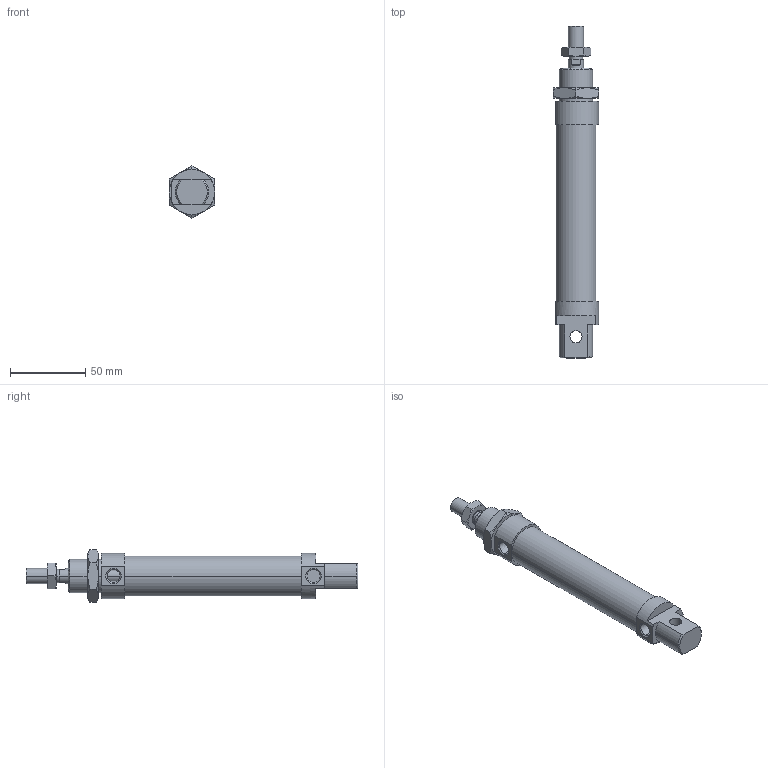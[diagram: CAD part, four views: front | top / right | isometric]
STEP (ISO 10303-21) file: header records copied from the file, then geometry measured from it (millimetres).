
FILE_DESCRIPTION((''),'2;1');
FILE_NAME('I:\DOC-EDP\Lib-3d\1200\CILINDRI\1280\1280_25_0080.stp','2003-04-07T18:00:10',('maffial1'),(''),'Autodesk Inventor (R) 6.0','Autodesk Inventor (R) 6.0','');
FILE_SCHEMA(('AUTOMOTIVE_DESIGN { 1 0 10303 214 1 1 1 1 }'));
Length unit declared in the file: millimetre
Products named in the file (5): 1280_25_0080; S1280_25_80; 1200_25_05; 1200_25_06; C1280_25_80
Assembly tree (4 placements, depth 2):
  1280_25_0080
    S1280_25_80
    1200_25_05
    1200_25_06
    C1280_25_80
Bounding box: 30 x 220 x 34.64 mm (x, y, z)
Volume: 104210.8 mm3; surface area: 29112.7 mm2
Topology: 4 solids, 4 shells, 124 faces, 281 edges, 170 vertices
Faces by surface type: plane 41, cone 40, cylinder 22, bspline 21
Entity records: 3808 total; most frequent: CARTESIAN_POINT 1031, DIRECTION 573, ORIENTED_EDGE 562, EDGE_CURVE 281, AXIS2_PLACEMENT_3D 236, VERTEX_POINT 170, EDGE_LOOP 137, FACE_OUTER_BOUND 124
